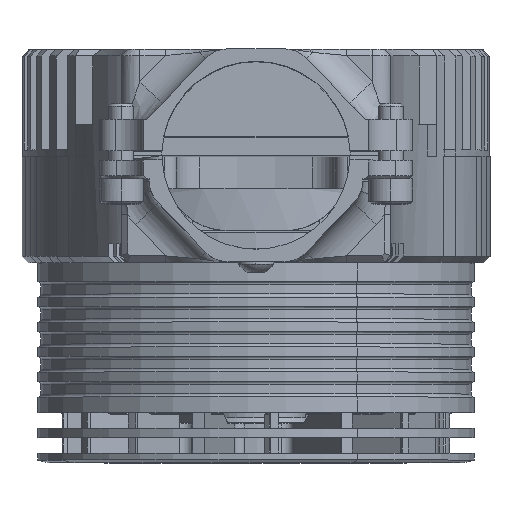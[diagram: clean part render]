
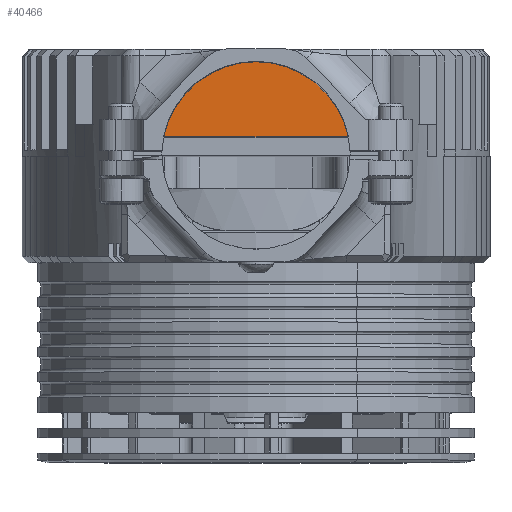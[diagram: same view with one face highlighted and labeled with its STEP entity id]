
A CAD part, top view. The second image highlights one B-rep face of the part: STEP entity #40466.
In plain terms, the highlighted planar face has unit normal (0, 0, 1).
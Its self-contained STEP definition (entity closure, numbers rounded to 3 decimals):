
#4630 = EDGE_LOOP ( 'NONE', ( #24466, #19022, #58999 ) ) ;
#8022 = VERTEX_POINT ( 'NONE', #38119 ) ;
#8279 = AXIS2_PLACEMENT_3D ( 'NONE', #17811, #31815, #12753 ) ;
#9673 = EDGE_CURVE ( 'NONE', #15926, #8022, #33004, .T. ) ;
#11068 = DIRECTION ( 'NONE',  ( 0., 0., 1. ) ) ;
#12753 = DIRECTION ( 'NONE',  ( 1., 0., 0. ) ) ;
#15926 = VERTEX_POINT ( 'NONE', #41700 ) ;
#17165 = DIRECTION ( 'NONE',  ( 0., 0., -1. ) ) ;
#17811 = CARTESIAN_POINT ( 'NONE',  ( 38.574, 86.612, 140.987 ) ) ;
#18587 = AXIS2_PLACEMENT_3D ( 'NONE', #52924, #17165, #49370 ) ;
#19022 = ORIENTED_EDGE ( 'NONE', *, *, #37362, .F. ) ;
#22501 = VECTOR ( 'NONE', #32715, 1000. ) ;
#23317 = CARTESIAN_POINT ( 'NONE',  ( 38.495, 86.612, 140.987 ) ) ;
#24017 = CARTESIAN_POINT ( 'NONE',  ( 38.535, 101.662, 140.987 ) ) ;
#24268 = EDGE_CURVE ( 'NONE', #24981, #8022, #56199, .T. ) ;
#24466 = ORIENTED_EDGE ( 'NONE', *, *, #9673, .F. ) ;
#24981 = VERTEX_POINT ( 'NONE', #24017 ) ;
#27329 = FACE_OUTER_BOUND ( 'NONE', #4630, .T. ) ;
#31815 = DIRECTION ( 'NONE',  ( 0., 0., 1. ) ) ;
#32715 = DIRECTION ( 'NONE',  ( -1., 0., 0. ) ) ;
#33004 = LINE ( 'NONE', #41385, #22501 ) ;
#37362 = EDGE_CURVE ( 'NONE', #24981, #15926, #44271, .T. ) ;
#38114 = AXIS2_PLACEMENT_3D ( 'NONE', #23317, #11068, #42378 ) ;
#38119 = CARTESIAN_POINT ( 'NONE',  ( 23.747, 89.612, 140.987 ) ) ;
#40466 = ADVANCED_FACE ( 'NONE', ( #27329 ), #40773, .T. ) ;
#40773 = PLANE ( 'NONE',  #8279 ) ;
#41385 = CARTESIAN_POINT ( 'NONE',  ( 24.393, 89.612, 140.987 ) ) ;
#41700 = CARTESIAN_POINT ( 'NONE',  ( 53.322, 89.612, 140.987 ) ) ;
#42378 = DIRECTION ( 'NONE',  ( 1., 0., 0. ) ) ;
#44271 = CIRCLE ( 'NONE', #18587, 15.05 ) ;
#49370 = DIRECTION ( 'NONE',  ( -1., 0., 0. ) ) ;
#52924 = CARTESIAN_POINT ( 'NONE',  ( 38.574, 86.612, 140.987 ) ) ;
#56199 = CIRCLE ( 'NONE', #38114, 15.05 ) ;
#58999 = ORIENTED_EDGE ( 'NONE', *, *, #24268, .T. ) ;
